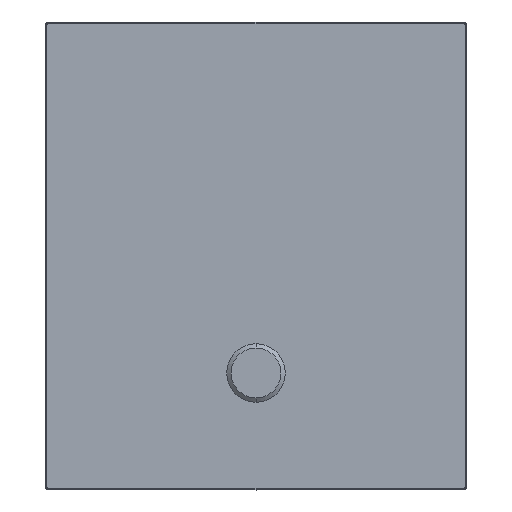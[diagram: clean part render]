
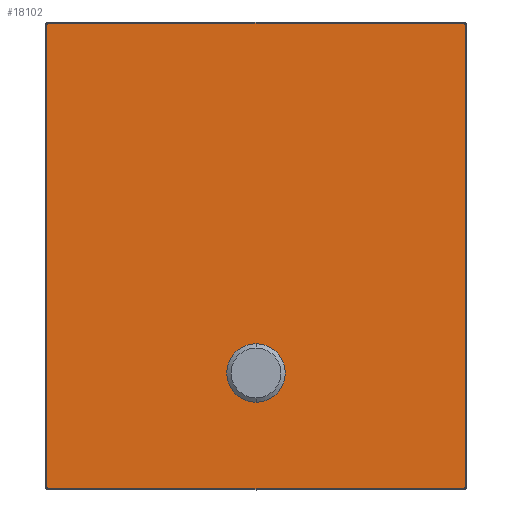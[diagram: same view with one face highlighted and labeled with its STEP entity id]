
A CAD part, front view. The second image highlights one B-rep face of the part: STEP entity #18102.
In plain terms, the highlighted planar face has unit normal (0, -1, 0).
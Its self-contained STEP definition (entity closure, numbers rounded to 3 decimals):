
#17901=CARTESIAN_POINT('',(443.,-40.,-243.));
#17902=DIRECTION('',(0.,-1.,0.));
#17903=DIRECTION('',(0.,0.,-1.));
#17904=AXIS2_PLACEMENT_3D('',#17901,#17902,#17903);
#17906=DIRECTION('',(1.,0.,0.));
#17907=VECTOR('',#17906,886.);
#17908=CARTESIAN_POINT('',(-443.,-40.,-247.1));
#17909=LINE('',#17908,#17907);
#17910=CARTESIAN_POINT('',(-443.,-40.,-243.));
#17911=DIRECTION('',(0.,-1.,0.));
#17912=DIRECTION('',(-1.,0.,0.));
#17913=AXIS2_PLACEMENT_3D('',#17910,#17911,#17912);
#17915=DIRECTION('',(0.,0.,-1.));
#17916=VECTOR('',#17915,986.);
#17917=CARTESIAN_POINT('',(-447.1,-40.,743.));
#17918=LINE('',#17917,#17916);
#17919=CARTESIAN_POINT('',(-443.,-40.,743.));
#17920=DIRECTION('',(0.,-1.,0.));
#17921=DIRECTION('',(0.,0.,1.));
#17922=AXIS2_PLACEMENT_3D('',#17919,#17920,#17921);
#17924=DIRECTION('',(-1.,0.,0.));
#17925=VECTOR('',#17924,886.);
#17926=CARTESIAN_POINT('',(443.,-40.,747.1));
#17927=LINE('',#17926,#17925);
#17928=CARTESIAN_POINT('',(443.,-40.,743.));
#17929=DIRECTION('',(0.,-1.,0.));
#17930=DIRECTION('',(1.,0.,0.));
#17931=AXIS2_PLACEMENT_3D('',#17928,#17929,#17930);
#17933=DIRECTION('',(0.,0.,1.));
#17934=VECTOR('',#17933,986.);
#17935=CARTESIAN_POINT('',(447.1,-40.,-243.));
#17936=LINE('',#17935,#17934);
#17937=CARTESIAN_POINT('',(0.,-40.,0.));
#17938=DIRECTION('',(0.,-1.,0.));
#17939=DIRECTION('',(0.,0.,1.));
#17940=AXIS2_PLACEMENT_3D('',#17937,#17938,#17939);
#17942=CARTESIAN_POINT('',(0.,-40.,0.));
#17943=DIRECTION('',(0.,-1.,0.));
#17944=DIRECTION('',(0.,0.,-1.));
#17945=AXIS2_PLACEMENT_3D('',#17942,#17943,#17944);
#18033=CARTESIAN_POINT('',(443.,-40.,-247.1));
#18034=CARTESIAN_POINT('',(447.1,-40.,-243.));
#18035=VERTEX_POINT('',#18033);
#18036=VERTEX_POINT('',#18034);
#18037=CARTESIAN_POINT('',(447.1,-40.,743.));
#18038=VERTEX_POINT('',#18037);
#18039=CARTESIAN_POINT('',(443.,-40.,747.1));
#18040=VERTEX_POINT('',#18039);
#18041=CARTESIAN_POINT('',(-443.,-40.,747.1));
#18042=VERTEX_POINT('',#18041);
#18043=CARTESIAN_POINT('',(-447.1,-40.,743.));
#18044=VERTEX_POINT('',#18043);
#18045=CARTESIAN_POINT('',(-447.1,-40.,-243.));
#18046=VERTEX_POINT('',#18045);
#18047=CARTESIAN_POINT('',(-443.,-40.,-247.1));
#18048=VERTEX_POINT('',#18047);
#18065=CARTESIAN_POINT('',(0.,-40.,62.531));
#18066=CARTESIAN_POINT('',(0.,-40.,-62.531));
#18067=VERTEX_POINT('',#18065);
#18068=VERTEX_POINT('',#18066);
#18073=CARTESIAN_POINT('',(0.,-40.,0.));
#18074=DIRECTION('',(0.,-1.,0.));
#18075=DIRECTION('',(-1.,0.,0.));
#18076=AXIS2_PLACEMENT_3D('',#18073,#18074,#18075);
#18077=PLANE('',#18076);
#18079=ORIENTED_EDGE('',*,*,#18078,.F.);
#18081=ORIENTED_EDGE('',*,*,#18080,.F.);
#18083=ORIENTED_EDGE('',*,*,#18082,.F.);
#18085=ORIENTED_EDGE('',*,*,#18084,.F.);
#18087=ORIENTED_EDGE('',*,*,#18086,.F.);
#18089=ORIENTED_EDGE('',*,*,#18088,.F.);
#18091=ORIENTED_EDGE('',*,*,#18090,.F.);
#18093=ORIENTED_EDGE('',*,*,#18092,.F.);
#18094=EDGE_LOOP('',(#18079,#18081,#18083,#18085,#18087,#18089,#18091,#18093));
#18095=FACE_OUTER_BOUND('',#18094,.F.);
#18097=ORIENTED_EDGE('',*,*,#18096,.T.);
#18099=ORIENTED_EDGE('',*,*,#18098,.T.);
#18100=EDGE_LOOP('',(#18097,#18099));
#18101=FACE_BOUND('',#18100,.F.);
#18102=ADVANCED_FACE('',(#18095,#18101),#18077,.T.);
#17905=CIRCLE('',#17904,4.1);
#17914=CIRCLE('',#17913,4.1);
#17923=CIRCLE('',#17922,4.1);
#17932=CIRCLE('',#17931,4.1);
#17941=CIRCLE('',#17940,62.531);
#17946=CIRCLE('',#17945,62.531);
#18078=EDGE_CURVE('',#18035,#18036,#17905,.T.);
#18080=EDGE_CURVE('',#18048,#18035,#17909,.T.);
#18082=EDGE_CURVE('',#18046,#18048,#17914,.T.);
#18084=EDGE_CURVE('',#18044,#18046,#17918,.T.);
#18086=EDGE_CURVE('',#18042,#18044,#17923,.T.);
#18088=EDGE_CURVE('',#18040,#18042,#17927,.T.);
#18090=EDGE_CURVE('',#18038,#18040,#17932,.T.);
#18092=EDGE_CURVE('',#18036,#18038,#17936,.T.);
#18096=EDGE_CURVE('',#18067,#18068,#17941,.T.);
#18098=EDGE_CURVE('',#18068,#18067,#17946,.T.);
